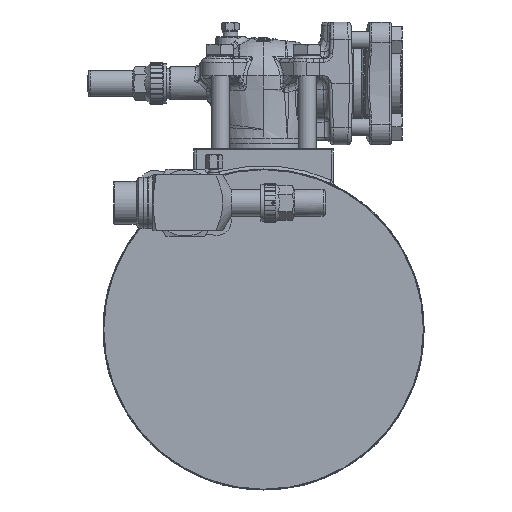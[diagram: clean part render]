
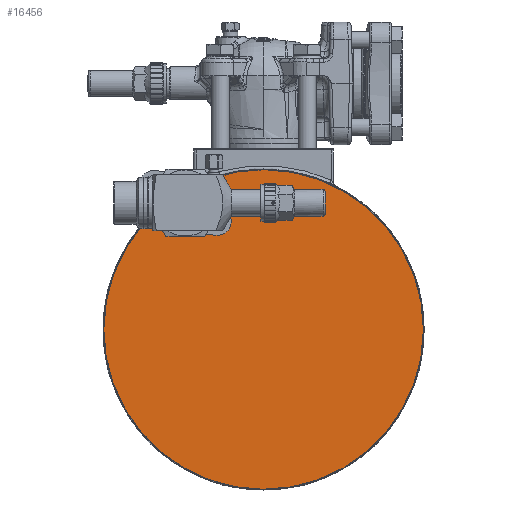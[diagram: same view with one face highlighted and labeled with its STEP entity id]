
A CAD part, left-side view. The second image highlights one B-rep face of the part: STEP entity #16456.
In plain terms, the highlighted planar face has unit normal (-1, 0, 0) as drawn and (0, 1, 0) by its records, which use the part's own axes.
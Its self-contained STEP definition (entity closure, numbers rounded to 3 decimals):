
#10109=FACE_OUTER_BOUND('',#25184,.T.);
#16456=ADVANCED_FACE('',(#10109),#17434,.F.);
#17434=PLANE('',#54846);
#25184=EDGE_LOOP('',(#37336,#37337));
#37336=ORIENTED_EDGE('',*,*,#49383,.T.);
#37337=ORIENTED_EDGE('',*,*,#49384,.T.);
#42771=VERTEX_POINT('',#116162);
#42772=VERTEX_POINT('',#116163);
#49383=EDGE_CURVE('',#42771,#42772,#51719,.T.);
#49384=EDGE_CURVE('',#42772,#42771,#51720,.T.);
#51719=CIRCLE('',#54844,142.9);
#51720=CIRCLE('',#54845,142.9);
#54844=AXIS2_PLACEMENT_3D('',#116161,#63391,#63392);
#54845=AXIS2_PLACEMENT_3D('',#116164,#63393,#63394);
#54846=AXIS2_PLACEMENT_3D('',#116165,#63395,#63396);
#63391=DIRECTION('',(0.,1.,0.));
#63392=DIRECTION('',(0.,0.,-1.));
#63393=DIRECTION('',(0.,1.,0.));
#63394=DIRECTION('',(0.,0.,-1.));
#63395=DIRECTION('',(0.,-1.,0.));
#63396=DIRECTION('',(1.,0.,0.003));
#116161=CARTESIAN_POINT('',(0.,1.,0.));
#116162=CARTESIAN_POINT('',(-142.899,1.,-0.494));
#116163=CARTESIAN_POINT('',(142.899,1.,0.494));
#116164=CARTESIAN_POINT('',(0.,1.,0.));
#116165=CARTESIAN_POINT('',(-200.764,1.,-223.515));
